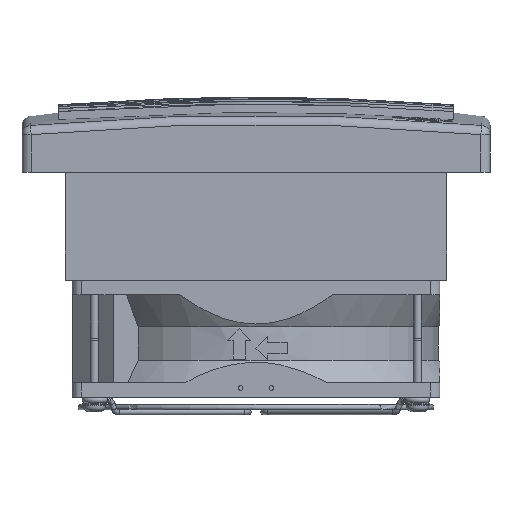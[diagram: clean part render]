
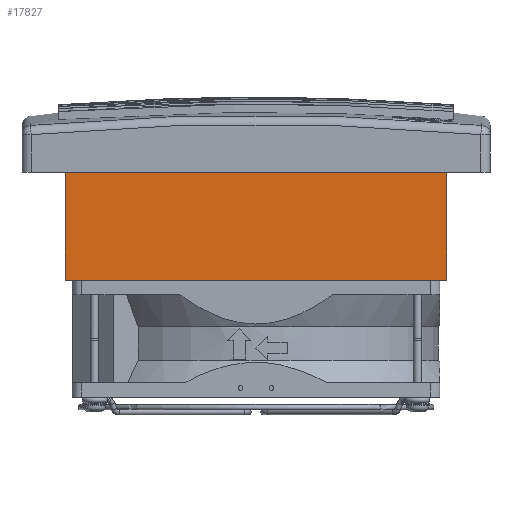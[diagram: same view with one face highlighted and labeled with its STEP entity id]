
A CAD part, front view. The second image highlights one B-rep face of the part: STEP entity #17827.
In plain terms, the highlighted planar face has unit normal (0, -1, 0).
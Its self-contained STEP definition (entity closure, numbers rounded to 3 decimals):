
#200 = VECTOR ( 'NONE', #10407, 1000. ) ;
#1460 = FACE_OUTER_BOUND ( 'NONE', #5854, .T. ) ;
#1585 = CARTESIAN_POINT ( 'NONE',  ( 124., -124., -35. ) ) ;
#2162 = VERTEX_POINT ( 'NONE', #23766 ) ;
#2862 = CARTESIAN_POINT ( 'NONE',  ( 124., -124., -35. ) ) ;
#4880 = PLANE ( 'NONE',  #13455 ) ;
#5076 = DIRECTION ( 'NONE',  ( 0., 0., -1. ) ) ;
#5659 = ORIENTED_EDGE ( 'NONE', *, *, #6323, .F. ) ;
#5854 = EDGE_LOOP ( 'NONE', ( #17946, #27557, #5659, #16222 ) ) ;
#6097 = LINE ( 'NONE', #1585, #200 ) ;
#6323 = EDGE_CURVE ( 'NONE', #12347, #17023, #6097, .T. ) ;
#6901 = CARTESIAN_POINT ( 'NONE',  ( 0., -124., -35. ) ) ;
#7024 = VECTOR ( 'NONE', #21941, 1000. ) ;
#7744 = DIRECTION ( 'NONE',  ( 0., 0., 1. ) ) ;
#10407 = DIRECTION ( 'NONE',  ( -1., 0., 0. ) ) ;
#10443 = EDGE_CURVE ( 'NONE', #17023, #2162, #18502, .T. ) ;
#12347 = VERTEX_POINT ( 'NONE', #21817 ) ;
#12941 = LINE ( 'NONE', #28507, #7024 ) ;
#13455 = AXIS2_PLACEMENT_3D ( 'NONE', #2862, #18328, #5076 ) ;
#16222 = ORIENTED_EDGE ( 'NONE', *, *, #16867, .T. ) ;
#16803 = LINE ( 'NONE', #20944, #28501 ) ;
#16867 = EDGE_CURVE ( 'NONE', #12347, #24262, #16803, .T. ) ;
#17023 = VERTEX_POINT ( 'NONE', #23554 ) ;
#17814 = CARTESIAN_POINT ( 'NONE',  ( 124., -124., 0. ) ) ;
#17827 = ADVANCED_FACE ( 'NONE', ( #1460 ), #4880, .F. ) ;
#17946 = ORIENTED_EDGE ( 'NONE', *, *, #26619, .T. ) ;
#18328 = DIRECTION ( 'NONE',  ( 0., 1., 0. ) ) ;
#18502 = LINE ( 'NONE', #6901, #23679 ) ;
#20944 = CARTESIAN_POINT ( 'NONE',  ( 124., -124., -35. ) ) ;
#21817 = CARTESIAN_POINT ( 'NONE',  ( 124., -124., -35. ) ) ;
#21941 = DIRECTION ( 'NONE',  ( -1., 0., 0. ) ) ;
#22339 = DIRECTION ( 'NONE',  ( 0., 0., 1. ) ) ;
#23554 = CARTESIAN_POINT ( 'NONE',  ( 0., -124., -35. ) ) ;
#23679 = VECTOR ( 'NONE', #22339, 1000. ) ;
#23766 = CARTESIAN_POINT ( 'NONE',  ( 0., -124., 0. ) ) ;
#24262 = VERTEX_POINT ( 'NONE', #17814 ) ;
#26619 = EDGE_CURVE ( 'NONE', #24262, #2162, #12941, .T. ) ;
#27557 = ORIENTED_EDGE ( 'NONE', *, *, #10443, .F. ) ;
#28501 = VECTOR ( 'NONE', #7744, 1000. ) ;
#28507 = CARTESIAN_POINT ( 'NONE',  ( 124., -124., 0. ) ) ;
